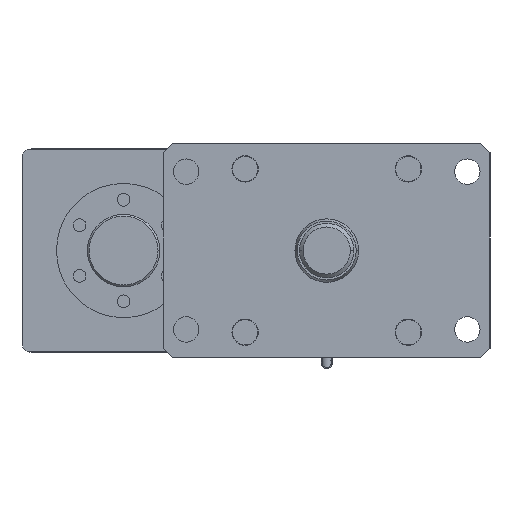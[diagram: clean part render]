
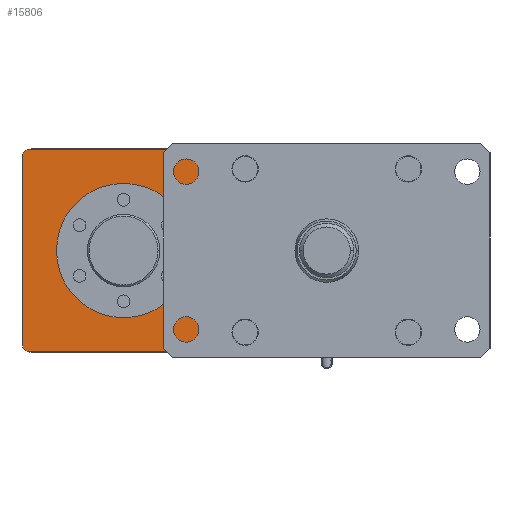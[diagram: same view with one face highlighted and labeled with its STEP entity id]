
A CAD part, front view. The second image highlights one B-rep face of the part: STEP entity #15806.
In plain terms, the highlighted planar face has unit normal (0, -1, 0).
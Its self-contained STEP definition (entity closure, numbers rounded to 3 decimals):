
#305 = CIRCLE ( 'NONE', #7462, 37. ) ;
#474 = ORIENTED_EDGE ( 'NONE', *, *, #5507, .T. ) ;
#759 = CARTESIAN_POINT ( 'NONE',  ( -56.2, 0., 52.4 ) ) ;
#790 = CARTESIAN_POINT ( 'NONE',  ( -163., 0., -51. ) ) ;
#862 = CARTESIAN_POINT ( 'NONE',  ( -112., 0., 37. ) ) ;
#960 = CARTESIAN_POINT ( 'NONE',  ( -167.8, 0., -52.4 ) ) ;
#1038 = VERTEX_POINT ( 'NONE', #8930 ) ;
#1048 = VECTOR ( 'NONE', #12281, 1000. ) ;
#1067 = PLANE ( 'NONE',  #6366 ) ;
#1332 = DIRECTION ( 'NONE',  ( 0., 0., -1. ) ) ;
#1669 = CIRCLE ( 'NONE', #14771, 5. ) ;
#1860 = CARTESIAN_POINT ( 'NONE',  ( -112., 0., -37. ) ) ;
#1885 = EDGE_CURVE ( 'NONE', #4424, #15238, #305, .T. ) ;
#2048 = DIRECTION ( 'NONE',  ( -1., 0., 0. ) ) ;
#2238 = CARTESIAN_POINT ( 'NONE',  ( -168., 0., -55.8 ) ) ;
#2300 = DIRECTION ( 'NONE',  ( -1., 0., 0. ) ) ;
#2386 = LINE ( 'NONE', #8772, #5706 ) ;
#2786 = ORIENTED_EDGE ( 'NONE', *, *, #4004, .T. ) ;
#2970 = VERTEX_POINT ( 'NONE', #960 ) ;
#3611 = AXIS2_PLACEMENT_3D ( 'NONE', #7239, #15844, #8472 ) ;
#3644 = CARTESIAN_POINT ( 'NONE',  ( -56.2, 0., 56. ) ) ;
#4004 = EDGE_CURVE ( 'NONE', #1038, #15901, #8667, .T. ) ;
#4206 = ORIENTED_EDGE ( 'NONE', *, *, #8539, .T. ) ;
#4424 = VERTEX_POINT ( 'NONE', #1860 ) ;
#4456 = VERTEX_POINT ( 'NONE', #759 ) ;
#4736 = LINE ( 'NONE', #2238, #14206 ) ;
#4761 = AXIS2_PLACEMENT_3D ( 'NONE', #5545, #14181, #6786 ) ;
#4810 = CARTESIAN_POINT ( 'NONE',  ( -163., 0., 51. ) ) ;
#4890 = DIRECTION ( 'NONE',  ( -1., 0., 0. ) ) ;
#4927 = VERTEX_POINT ( 'NONE', #13266 ) ;
#5158 = CARTESIAN_POINT ( 'NONE',  ( -112., 0., 0. ) ) ;
#5256 = EDGE_LOOP ( 'NONE', ( #11759, #7223 ) ) ;
#5507 = EDGE_CURVE ( 'NONE', #4927, #12260, #4736, .T. ) ;
#5545 = CARTESIAN_POINT ( 'NONE',  ( -112., 0., 0. ) ) ;
#5706 = VECTOR ( 'NONE', #1332, 1000. ) ;
#6048 = DIRECTION ( 'NONE',  ( -1., 0., 0. ) ) ;
#6366 = AXIS2_PLACEMENT_3D ( 'NONE', #7304, #13410, #2300 ) ;
#6379 = DIRECTION ( 'NONE',  ( -1., 0., 0. ) ) ;
#6534 = AXIS2_PLACEMENT_3D ( 'NONE', #4810, #13452, #6048 ) ;
#6615 = ORIENTED_EDGE ( 'NONE', *, *, #12513, .T. ) ;
#6632 = CARTESIAN_POINT ( 'NONE',  ( -56.2, 0., -55.8 ) ) ;
#6786 = DIRECTION ( 'NONE',  ( -1., 0., 0. ) ) ;
#7203 = CIRCLE ( 'NONE', #3611, 5. ) ;
#7218 = EDGE_LOOP ( 'NONE', ( #4206, #6615, #11842, #2786, #8033, #9964, #474 ) ) ;
#7223 = ORIENTED_EDGE ( 'NONE', *, *, #1885, .F. ) ;
#7239 = CARTESIAN_POINT ( 'NONE',  ( -61., 0., 51. ) ) ;
#7304 = CARTESIAN_POINT ( 'NONE',  ( -168., 0., 56. ) ) ;
#7363 = EDGE_CURVE ( 'NONE', #2970, #4927, #1669, .T. ) ;
#7462 = AXIS2_PLACEMENT_3D ( 'NONE', #5158, #13789, #6379 ) ;
#8025 = VERTEX_POINT ( 'NONE', #16094 ) ;
#8033 = ORIENTED_EDGE ( 'NONE', *, *, #9160, .T. ) ;
#8313 = FACE_OUTER_BOUND ( 'NONE', #7218, .T. ) ;
#8472 = DIRECTION ( 'NONE',  ( -1., 0., 0. ) ) ;
#8539 = EDGE_CURVE ( 'NONE', #12260, #4456, #14231, .T. ) ;
#8667 = CIRCLE ( 'NONE', #6534, 5. ) ;
#8772 = CARTESIAN_POINT ( 'NONE',  ( -167.8, 0., 56. ) ) ;
#8930 = CARTESIAN_POINT ( 'NONE',  ( -164.4, 0., 55.8 ) ) ;
#9160 = EDGE_CURVE ( 'NONE', #15901, #2970, #2386, .T. ) ;
#9408 = EDGE_CURVE ( 'NONE', #8025, #1038, #15357, .T. ) ;
#9467 = DIRECTION ( 'NONE',  ( 0., -1., 0. ) ) ;
#9944 = CARTESIAN_POINT ( 'NONE',  ( -167.8, 0., 52.4 ) ) ;
#9964 = ORIENTED_EDGE ( 'NONE', *, *, #7363, .T. ) ;
#10898 = DIRECTION ( 'NONE',  ( 1., 0., 0. ) ) ;
#11759 = ORIENTED_EDGE ( 'NONE', *, *, #12315, .F. ) ;
#11842 = ORIENTED_EDGE ( 'NONE', *, *, #9408, .T. ) ;
#12260 = VERTEX_POINT ( 'NONE', #6632 ) ;
#12281 = DIRECTION ( 'NONE',  ( 0., 0., 1. ) ) ;
#12315 = EDGE_CURVE ( 'NONE', #15238, #4424, #15678, .T. ) ;
#12513 = EDGE_CURVE ( 'NONE', #4456, #8025, #7203, .T. ) ;
#13266 = CARTESIAN_POINT ( 'NONE',  ( -164.4, 0., -55.8 ) ) ;
#13410 = DIRECTION ( 'NONE',  ( 0., 1., 0. ) ) ;
#13452 = DIRECTION ( 'NONE',  ( 0., -1., 0. ) ) ;
#13789 = DIRECTION ( 'NONE',  ( 0., -1., 0. ) ) ;
#14181 = DIRECTION ( 'NONE',  ( 0., -1., 0. ) ) ;
#14206 = VECTOR ( 'NONE', #10898, 1000. ) ;
#14231 = LINE ( 'NONE', #3644, #1048 ) ;
#14771 = AXIS2_PLACEMENT_3D ( 'NONE', #790, #9467, #2048 ) ;
#14780 = CARTESIAN_POINT ( 'NONE',  ( -168., 0., 55.8 ) ) ;
#14868 = FACE_BOUND ( 'NONE', #5256, .T. ) ;
#15238 = VERTEX_POINT ( 'NONE', #862 ) ;
#15357 = LINE ( 'NONE', #14780, #15745 ) ;
#15678 = CIRCLE ( 'NONE', #4761, 37. ) ;
#15745 = VECTOR ( 'NONE', #4890, 1000. ) ;
#15806 = ADVANCED_FACE ( 'NONE', ( #8313, #14868 ), #1067, .F. ) ;
#15844 = DIRECTION ( 'NONE',  ( 0., -1., 0. ) ) ;
#15901 = VERTEX_POINT ( 'NONE', #9944 ) ;
#16094 = CARTESIAN_POINT ( 'NONE',  ( -59.6, 0., 55.8 ) ) ;
